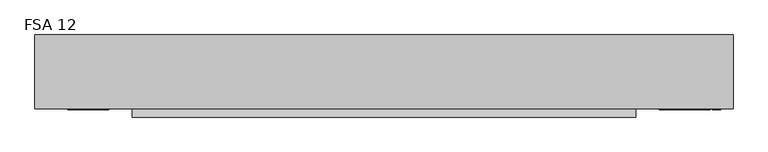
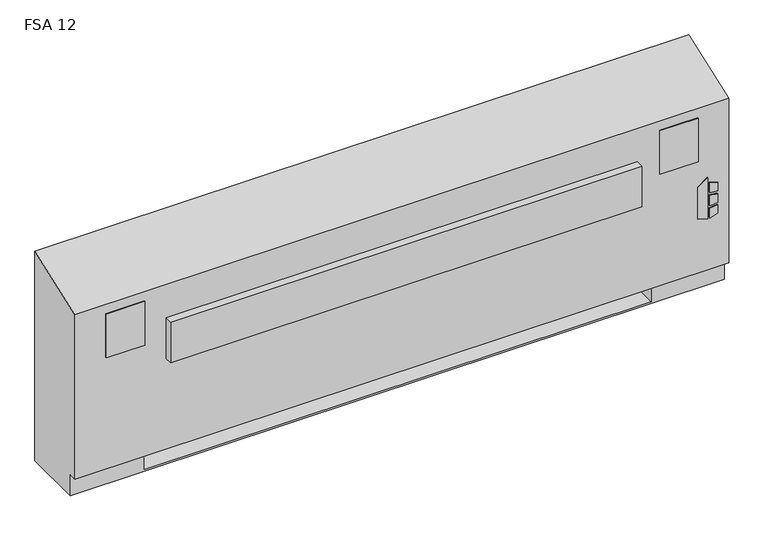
"""IFC4 building model written with IfcOpenShell, lengths in millimetres: proxy geometry, Vertical_Fan_Coil_Unit_-_FSA_-_IEC_-_2-Pipe_FS-FR_RH_2022 : FSA 12."""

from ifc_helpers import new_model, si_unit, point, frame, frame_2d, origin, place, context, project, spatial, polyline, circle_curve, trimmed, segment, composite_curve, outline, extrude, source, transform, mapped, element, save
from ifc_brep_helpers import plane_surface, revolved_surface, advanced_brep


def fsa_12_98031c45(model_context):
    return source(origin(), model_context, "Body", "SolidModel", [
        extrude(outline(polyline([(263.9480703, 1128.7868862), (254.0, 1160.9602728), (396.1709244, 1160.9602728), (373.1489183, 1128.7868862), (263.9480703, 1128.7868862)])), frame((0.0, 12.7, 0.0), z_axis=(0.0, 1.0, 0.0), x_axis=(0.0, 0.0, 1.0)), (0.0, 0.0, 1.0), 3.175),
        extrude(outline(polyline([(342.9473557, 1167.7186058), (339.7449632, 1193.8), (368.9738042, 1193.8), (377.0382193, 1167.7186058), (342.9473557, 1167.7186058)])), frame((0.0, 12.7, 0.0), z_axis=(0.0, 1.0, 0.0), x_axis=(0.0, 0.0, 1.0)), (0.0, 0.0, 1.0), 3.175),
        extrude(outline(polyline([(291.0838288, 1193.8), (287.4183279, 1167.7186058), (254.0, 1167.7186058), (262.6342372, 1193.8), (291.0838288, 1193.8)])), frame((0.0, 12.7, 0.0), z_axis=(0.0, 1.0, 0.0), x_axis=(0.0, 0.0, 1.0)), (0.0, 0.0, 1.0), 3.175),
        extrude(outline(polyline([(330.3989903, 1193.8), (332.6808166, 1167.7186058), (296.7432681, 1167.7186058), (299.4845331, 1193.8), (330.3989903, 1193.8)])), frame((0.0, 12.7, 0.0), z_axis=(0.0, 1.0, 0.0), x_axis=(0.0, 0.0, 1.0)), (0.0, 0.0, 1.0), 3.175),
        extrude(outline(polyline([(-806.45, 81.534), (-806.45, 223.266), (-685.8, 223.266), (-685.8, 81.534), (-806.45, 81.534)])), frame((0.0, 0.0, 327.025), z_axis=(0.0, 0.0, 1.0), x_axis=(1.0, 0.0, 0.0)), (0.0, 0.0, 1.0), 260.35),
        extrude(outline(polyline([(-698.5, 12.7), (-825.5, 12.7), (-825.5, 15.875), (-698.5, 15.875), (-698.5, 12.7)])), frame((0.0, 0.0, 463.55), z_axis=(0.0, 0.0, 1.0), x_axis=(1.0, 0.0, 0.0)), (0.0, 0.0, 1.0), 152.4),
        extrude(outline(polyline([(1130.3, 12.7), (1003.3, 12.7), (1003.3, 15.875), (1130.3, 15.875), (1130.3, 12.7)])), frame((0.0, 0.0, 463.55), z_axis=(0.0, 0.0, 1.0), x_axis=(1.0, 0.0, 0.0)), (0.0, 0.0, 1.0), 152.4),
        extrude(outline(composite_curve([segment(trimmed(circle_curve(frame_2d((1054.1, 130.175)), 9.525), [point((1044.575, 130.175))], [point((1063.625, 130.175))], False, "CARTESIAN"), True, "CONTINUOUS"), segment(trimmed(circle_curve(frame_2d((1054.1, 130.175)), 9.525), [point((1063.625, 130.175))], [point((1044.575, 130.175))], False, "CARTESIAN"), True, "CONTINUOUS")], self_intersect=False)), frame((0.0, 0.0, 101.6), z_axis=(0.0, 0.0, 1.0), x_axis=(1.0, 0.0, 0.0)), (0.0, 0.0, 1.0), 25.4),
        extrude(outline(polyline([(1155.7, 196.85), (1155.7, 63.5), (990.6, 63.5), (990.6, 196.85), (1155.7, 196.85)])), frame((0.0, 0.0, 127.0), z_axis=(0.0, 0.0, 1.0), x_axis=(1.0, 0.0, 0.0)), (0.0, 0.0, 1.0), 50.8),
        extrude(outline(polyline([(930.275, -9.525), (-625.475, -9.525), (-625.475, 15.875), (930.275, 15.875), (930.275, -9.525)])), frame((0.0, 0.0, 389.3009245), z_axis=(0.0, 0.0, 1.0), x_axis=(1.0, 0.0, 0.0)), (0.0, 0.0, 1.0), 142.875),
        extrude(outline(composite_curve([segment(trimmed(circle_curve(frame_2d((109.347, 456.819)), 7.9375), [point((109.347, 464.7565))], [point((109.347, 448.8815))], False, "CARTESIAN"), True, "CONTINUOUS"), segment(trimmed(circle_curve(frame_2d((109.347, 456.819)), 7.9375), [point((109.347, 448.8815))], [point((109.347, 464.7565))], False, "CARTESIAN"), True, "CONTINUOUS")], self_intersect=False)), frame((990.6, 0.0, 0.0), z_axis=(1.0, 0.0, 0.0), x_axis=(0.0, 1.0, 0.0)), (0.0, 0.0, 1.0), 50.8),
        extrude(outline(composite_curve([segment(trimmed(circle_curve(frame_2d((157.4546, 429.4632)), 7.9375), [point((157.4546, 437.4007))], [point((157.4546, 421.5257))], False, "CARTESIAN"), True, "CONTINUOUS"), segment(trimmed(circle_curve(frame_2d((157.4546, 429.4632)), 7.9375), [point((157.4546, 421.5257))], [point((157.4546, 437.4007))], False, "CARTESIAN"), True, "CONTINUOUS")], self_intersect=False)), frame((990.6, 0.0, 0.0), z_axis=(1.0, 0.0, 0.0), x_axis=(0.0, 1.0, 0.0)), (0.0, 0.0, 1.0), 50.8),
        advanced_brep(
        [(-927.1, 244.475, 0.0), (1231.9, 244.475, 0.0), (1231.9, 41.275, 0.0), (-927.1, 41.275, 0.0), (-927.1, 244.475, 730.25), (1231.9, 244.475, 730.25), (990.6, 244.475, 73.025), (1219.2, 244.475, 73.025), (1219.2, 244.475, 654.05), (990.6, 244.475, 654.05), (990.6, 244.475, 414.8650565), (1019.175, 244.475, 414.8650565), (1019.175, 244.475, 385.2349435), (990.6, 244.475, 385.2349435), (990.6, 244.475, 287.3375), (1019.175, 244.475, 287.3375), (1019.175, 244.475, 258.7625), (990.6, 244.475, 258.7625), (990.6, 244.475, 141.2875), (1019.175, 244.475, 141.2875), (1019.175, 244.475, 112.7125), (990.6, 244.475, 112.7125), (-685.8, 244.475, 654.05), (-914.4, 244.475, 654.05), (-914.4, 244.475, 73.025), (-685.8, 244.475, 73.025), (-685.8, 244.475, 112.7125), (-714.375, 244.475, 112.7125), (-714.375, 244.475, 141.2875), (-685.8, 244.475, 141.2875), (-685.8, 244.475, 258.7625), (-714.375, 244.475, 258.7625), (-714.375, 244.475, 287.3375), (-685.8, 244.475, 287.3375), (-685.8, 244.475, 385.2349435), (-714.375, 244.475, 385.2349435), (-714.375, 244.475, 414.8650565), (-685.8, 244.475, 414.8650565), (1008.8626, 244.475, 127.0), (997.7374, 244.475, 127.0), (1008.8626, 244.475, 400.05), (997.7374, 244.475, 400.05), (1008.8626, 244.475, 273.05), (997.7374, 244.475, 273.05), (-692.9374, 244.475, 127.0), (-704.0626, 244.475, 127.0), (-692.9374, 244.475, 273.05), (-704.0626, 244.475, 273.05), (-692.9374, 244.475, 400.05), (-704.0626, 244.475, 400.05), (-927.1, 41.275, 73.025), (-927.1, 15.875, 73.025), (-927.1, 15.875, 647.7), (1231.9, 15.875, 73.025), (1231.9, 15.875, 647.7), (1231.9, 41.275, 73.025), (-685.8, 41.275, 73.025), (-685.8, 225.425, 73.025), (990.6, 225.425, 73.025), (990.6, 41.275, 73.025), (990.6, 41.275, 6.35), (-685.8, 41.275, 6.35), (990.6, 41.275, 654.05), (1219.2, 41.275, 654.05), (1219.2, 41.275, 73.025), (990.6, 41.275, 73.025), (-685.8, 41.275, 654.05), (-685.8, 41.275, 73.025), (-914.4, 41.275, 73.025), (-914.4, 41.275, 654.05), (990.6, 225.425, 73.025), (990.6, 238.125, 112.7125), (990.6, 238.125, 141.2875), (990.6, 238.125, 258.7625), (990.6, 238.125, 287.3375), (990.6, 238.125, 385.2349435), (990.6, 238.125, 414.8650565), (-685.8, 225.425, 73.025), (-685.8, 238.125, 414.8650565), (-685.8, 238.125, 385.2349435), (-685.8, 238.125, 287.3375), (-685.8, 238.125, 258.7625), (-685.8, 238.125, 141.2875), (-685.8, 238.125, 112.7125), (-685.8, 225.425, 6.35), (990.6, 225.425, 6.35), (1019.175, 238.125, 112.7125), (1019.175, 238.125, 141.2875), (997.7374, 238.125, 127.0), (1008.8626, 238.125, 127.0), (1019.175, 238.125, 258.7625), (1019.175, 238.125, 287.3375), (997.7374, 238.125, 273.05), (1008.8626, 238.125, 273.05), (1019.175, 238.125, 385.2349435), (1019.175, 238.125, 414.8650565), (997.7374, 238.125, 400.05), (1008.8626, 238.125, 400.05), (-714.375, 238.125, 141.2875), (-714.375, 238.125, 112.7125), (-704.0626, 238.125, 127.0), (-692.9374, 238.125, 127.0), (-714.375, 238.125, 287.3375), (-714.375, 238.125, 258.7625), (-704.0626, 238.125, 273.05), (-692.9374, 238.125, 273.05), (-714.375, 238.125, 414.8650565), (-714.375, 238.125, 385.2349435), (-704.0626, 238.125, 400.05), (-692.9374, 238.125, 400.05)],
        [
            (0, 1),
            (1, 2),
            (2, 3),
            (3, 0),
            (0, 4),
            (4, 5),
            (5, 1),
            (6, 7),
            (7, 8),
            (8, 9),
            (9, 10),
            (10, 11),
            (11, 12),
            (12, 13),
            (13, 14),
            (14, 15),
            (15, 16),
            (16, 17),
            (17, 18),
            (18, 19),
            (19, 20),
            (20, 21),
            (21, 6),
            (22, 23),
            (23, 24),
            (24, 25),
            (25, 26),
            (26, 27),
            (27, 28),
            (28, 29),
            (29, 30),
            (30, 31),
            (31, 32),
            (32, 33),
            (33, 34),
            (34, 35),
            (35, 36),
            (36, 37),
            (37, 22),
            (38, 39, circle_curve(frame((1003.3, 244.475, 127.0), z_axis=(0.0, -1.0, 0.0), x_axis=(-1.0, 0.0, 0.0)), 5.5626)),
            (39, 38, circle_curve(frame((1003.3, 244.475, 127.0), z_axis=(0.0, -1.0, 0.0), x_axis=(-1.0, 0.0, 0.0)), 5.5626)),
            (40, 41, circle_curve(frame((1003.3, 244.475, 400.05), z_axis=(0.0, -1.0, 0.0), x_axis=(-1.0, 0.0, 0.0)), 5.5626)),
            (41, 40, circle_curve(frame((1003.3, 244.475, 400.05), z_axis=(0.0, -1.0, 0.0), x_axis=(-1.0, 0.0, 0.0)), 5.5626)),
            (42, 43, circle_curve(frame((1003.3, 244.475, 273.05), z_axis=(0.0, -1.0, 0.0), x_axis=(-1.0, 0.0, 0.0)), 5.5626)),
            (43, 42, circle_curve(frame((1003.3, 244.475, 273.05), z_axis=(0.0, -1.0, 0.0), x_axis=(-1.0, 0.0, 0.0)), 5.5626)),
            (44, 45, circle_curve(frame((-698.5, 244.475, 127.0), z_axis=(0.0, -1.0, 0.0), x_axis=(-1.0, 0.0, 0.0)), 5.5626)),
            (45, 44, circle_curve(frame((-698.5, 244.475, 127.0), z_axis=(0.0, -1.0, 0.0), x_axis=(-1.0, 0.0, 0.0)), 5.5626)),
            (46, 47, circle_curve(frame((-698.5, 244.475, 273.05), z_axis=(0.0, -1.0, 0.0), x_axis=(-1.0, 0.0, 0.0)), 5.5626)),
            (47, 46, circle_curve(frame((-698.5, 244.475, 273.05), z_axis=(0.0, -1.0, 0.0), x_axis=(-1.0, 0.0, 0.0)), 5.5626)),
            (48, 49, circle_curve(frame((-698.5, 244.475, 400.05), z_axis=(0.0, -1.0, 0.0), x_axis=(-1.0, 0.0, 0.0)), 5.5626)),
            (49, 48, circle_curve(frame((-698.5, 244.475, 400.05), z_axis=(0.0, -1.0, 0.0), x_axis=(-1.0, 0.0, 0.0)), 5.5626)),
            (3, 50),
            (50, 51),
            (51, 52),
            (52, 4),
            (51, 53),
            (53, 54),
            (54, 52),
            (5, 54),
            (53, 55),
            (55, 2),
            (50, 56),
            (56, 57),
            (57, 58),
            (58, 59),
            (59, 55),
            (59, 60),
            (60, 61),
            (61, 56),
            (62, 63),
            (63, 64),
            (64, 65),
            (65, 62),
            (66, 67),
            (67, 68),
            (68, 69),
            (69, 66),
            (65, 70),
            (70, 6),
            (21, 71),
            (71, 72),
            (72, 18),
            (17, 73),
            (73, 74),
            (74, 14),
            (13, 75),
            (75, 76),
            (76, 10),
            (9, 62),
            (64, 7),
            (63, 8),
            (69, 23),
            (22, 66),
            (68, 24),
            (67, 77),
            (77, 25),
            (37, 78),
            (78, 79),
            (79, 34),
            (33, 80),
            (80, 81),
            (81, 30),
            (29, 82),
            (82, 83),
            (83, 26),
            (57, 84),
            (84, 85),
            (85, 58),
            (85, 60),
            (84, 61),
            (71, 86),
            (86, 87),
            (87, 72),
            (88, 89, circle_curve(frame((1003.3, 238.125, 127.0), z_axis=(0.0, 1.0, 0.0), x_axis=(-1.0, 0.0, 0.0)), 5.5626)),
            (89, 88, circle_curve(frame((1003.3, 238.125, 127.0), z_axis=(0.0, 1.0, 0.0), x_axis=(-1.0, 0.0, 0.0)), 5.5626)),
            (73, 90),
            (90, 91),
            (91, 74),
            (92, 93, circle_curve(frame((1003.3, 238.125, 273.05), z_axis=(0.0, 1.0, 0.0), x_axis=(-1.0, 0.0, 0.0)), 5.5626)),
            (93, 92, circle_curve(frame((1003.3, 238.125, 273.05), z_axis=(0.0, 1.0, 0.0), x_axis=(-1.0, 0.0, 0.0)), 5.5626)),
            (75, 94),
            (94, 95),
            (95, 76),
            (96, 97, circle_curve(frame((1003.3, 238.125, 400.05), z_axis=(0.0, 1.0, 0.0), x_axis=(-1.0, 0.0, 0.0)), 5.5626)),
            (97, 96, circle_curve(frame((1003.3, 238.125, 400.05), z_axis=(0.0, 1.0, 0.0), x_axis=(-1.0, 0.0, 0.0)), 5.5626)),
            (98, 99),
            (99, 83),
            (82, 98),
            (100, 101, circle_curve(frame((-698.5, 238.125, 127.0), z_axis=(0.0, 1.0, 0.0), x_axis=(-1.0, 0.0, 0.0)), 5.5626)),
            (101, 100, circle_curve(frame((-698.5, 238.125, 127.0), z_axis=(0.0, 1.0, 0.0), x_axis=(-1.0, 0.0, 0.0)), 5.5626)),
            (102, 103),
            (103, 81),
            (80, 102),
            (104, 105, circle_curve(frame((-698.5, 238.125, 273.05), z_axis=(0.0, 1.0, 0.0), x_axis=(-1.0, 0.0, 0.0)), 5.5626)),
            (105, 104, circle_curve(frame((-698.5, 238.125, 273.05), z_axis=(0.0, 1.0, 0.0), x_axis=(-1.0, 0.0, 0.0)), 5.5626)),
            (106, 107),
            (107, 79),
            (78, 106),
            (108, 109, circle_curve(frame((-698.5, 238.125, 400.05), z_axis=(0.0, 1.0, 0.0), x_axis=(-1.0, 0.0, 0.0)), 5.5626)),
            (109, 108, circle_curve(frame((-698.5, 238.125, 400.05), z_axis=(0.0, 1.0, 0.0), x_axis=(-1.0, 0.0, 0.0)), 5.5626)),
            (87, 19),
            (86, 20),
            (91, 15),
            (90, 16),
            (95, 11),
            (94, 12),
            (28, 98),
            (99, 27),
            (32, 102),
            (103, 31),
            (36, 106),
            (107, 35),
            (88, 39),
            (38, 89),
            (96, 41),
            (40, 97),
            (92, 43),
            (42, 93),
            (100, 45),
            (44, 101),
            (104, 47),
            (46, 105),
            (108, 49),
            (48, 109),
        ],
        [
            plane_surface(frame((-927.1, 244.475, 0.0), z_axis=(0.0, 0.0, -1.0), x_axis=(1.0, 0.0, 0.0))),
            plane_surface(frame((1231.9, 244.475, 730.25), z_axis=(0.0, 1.0, 0.0), x_axis=(0.0, 0.0, -1.0))),
            plane_surface(frame((-927.1, 244.475, 730.25), z_axis=(-1.0, 0.0, 0.0), x_axis=(0.0, 0.0, -1.0))),
            plane_surface(frame((-927.1, 15.875, 730.25), z_axis=(0.0, -1.0, 0.0), x_axis=(0.0, 0.0, -1.0))),
            plane_surface(frame((1231.9, 15.875, 730.25), z_axis=(1.0, 0.0, 0.0), x_axis=(0.0, 0.0, -1.0))),
            plane_surface(frame((-927.1, 15.875, 73.025), z_axis=(0.0, 0.0, -1.0), x_axis=(1.0, 0.0, 0.0))),
            plane_surface(frame((-927.1, 41.275, 73.025), z_axis=(0.0, -1.0, 0.0), x_axis=(1.0, 0.0, 0.0))),
            plane_surface(frame((990.6, 41.275, 654.05), z_axis=(0.0, 1.0, 0.0), x_axis=(0.0, 0.0, -1.0))),
            plane_surface(frame((990.6, 41.275, 654.05), z_axis=(1.0, 0.0, 0.0), x_axis=(0.0, 1.0, 0.0))),
            plane_surface(frame((990.6, 41.275, 73.025), z_axis=(0.0, 0.0, 1.0), x_axis=(0.0, 1.0, 0.0))),
            plane_surface(frame((1219.2, 41.275, 73.025), z_axis=(-1.0, 0.0, 0.0), x_axis=(0.0, 1.0, 0.0))),
            plane_surface(frame((1219.2, 41.275, 654.05), z_axis=(0.0, 0.0, -1.0), x_axis=(0.0, 1.0, 0.0))),
            plane_surface(frame((-685.8, 41.275, 654.05), z_axis=(0.0, 0.0, -1.0), x_axis=(0.0, 1.0, 0.0))),
            plane_surface(frame((-914.4, 41.275, 654.05), z_axis=(1.0, 0.0, 0.0), x_axis=(0.0, 1.0, 0.0))),
            plane_surface(frame((-914.4, 41.275, 73.025), z_axis=(0.0, 0.0, 1.0), x_axis=(0.0, 1.0, 0.0))),
            plane_surface(frame((-685.8, 41.275, 73.025), z_axis=(-1.0, 0.0, 0.0), x_axis=(0.0, 1.0, 0.0))),
            plane_surface(frame((990.6, 225.425, 73.025), z_axis=(0.0, -1.0, 0.0), x_axis=(0.0, 0.0, -1.0))),
            plane_surface(frame((990.6, 225.425, 73.025), z_axis=(-1.0, 0.0, 0.0), x_axis=(0.0, -1.0, 0.0))),
            plane_surface(frame((990.6, 225.425, 6.35), z_axis=(0.0, 0.0, 1.0), x_axis=(0.0, -1.0, 0.0))),
            plane_surface(frame((-685.8, 225.425, 6.35), z_axis=(1.0, 0.0, 0.0), x_axis=(0.0, -1.0, 0.0))),
            plane_surface(frame((1019.175, 238.125, 141.2875), z_axis=(0.0, -1.0, 0.0), x_axis=(-1.0, 0.0, 0.0))),
            plane_surface(frame((990.6, 244.475, 141.2875), z_axis=(0.0, 0.0, 1.0), x_axis=(0.0, -1.0, 0.0))),
            plane_surface(frame((1019.175, 244.475, 141.2875), z_axis=(1.0, 0.0, 0.0), x_axis=(0.0, -1.0, 0.0))),
            plane_surface(frame((1019.175, 244.475, 112.7125), z_axis=(0.0, 0.0, -1.0), x_axis=(0.0, -1.0, 0.0))),
            plane_surface(frame((990.6, 244.475, 287.3375), z_axis=(0.0, 0.0, 1.0), x_axis=(0.0, -1.0, 0.0))),
            plane_surface(frame((1019.175, 244.475, 287.3375), z_axis=(1.0, 0.0, 0.0), x_axis=(0.0, -1.0, 0.0))),
            plane_surface(frame((1019.175, 244.475, 258.7625), z_axis=(0.0, 0.0, -1.0), x_axis=(0.0, -1.0, 0.0))),
            plane_surface(frame((990.6, 244.475, 414.8650565), z_axis=(0.0, 0.0, 1.0), x_axis=(0.0, -1.0, 0.0))),
            plane_surface(frame((1019.175, 244.475, 414.8650565), z_axis=(1.0, 0.0, 0.0), x_axis=(0.0, -1.0, 0.0))),
            plane_surface(frame((1019.175, 244.475, 385.2349435), z_axis=(0.0, 0.0, -1.0), x_axis=(0.0, -1.0, 0.0))),
            plane_surface(frame((-714.375, 244.475, 141.2875), z_axis=(0.0, 0.0, 1.0), x_axis=(0.0, -1.0, 0.0))),
            plane_surface(frame((-685.8, 244.475, 112.7125), z_axis=(0.0, 0.0, -1.0), x_axis=(0.0, -1.0, 0.0))),
            plane_surface(frame((-714.375, 244.475, 112.7125), z_axis=(-1.0, 0.0, 0.0), x_axis=(0.0, -1.0, 0.0))),
            plane_surface(frame((-714.375, 244.475, 287.3375), z_axis=(0.0, 0.0, 1.0), x_axis=(0.0, -1.0, 0.0))),
            plane_surface(frame((-685.8, 244.475, 258.7625), z_axis=(0.0, 0.0, -1.0), x_axis=(0.0, -1.0, 0.0))),
            plane_surface(frame((-714.375, 244.475, 258.7625), z_axis=(-1.0, 0.0, 0.0), x_axis=(0.0, -1.0, 0.0))),
            plane_surface(frame((-714.375, 244.475, 414.8650565), z_axis=(0.0, 0.0, 1.0), x_axis=(0.0, -1.0, 0.0))),
            plane_surface(frame((-685.8, 244.475, 385.2349435), z_axis=(0.0, 0.0, -1.0), x_axis=(0.0, -1.0, 0.0))),
            plane_surface(frame((-714.375, 244.475, 385.2349435), z_axis=(-1.0, 0.0, 0.0), x_axis=(0.0, -1.0, 0.0))),
            revolved_surface(polyline([(997.7374, 238.125, 127.0), (997.7374, 244.475, 127.0)]), (1003.3, 244.475, 127.0), (0.0, -1.0, 0.0)),
            revolved_surface(polyline([(997.7374, 238.125, 400.05), (997.7374, 244.475, 400.05)]), (1003.3, 244.475, 400.05), (0.0, -1.0, 0.0)),
            revolved_surface(polyline([(997.7374, 238.125, 273.05), (997.7374, 244.475, 273.05)]), (1003.3, 244.475, 273.05), (0.0, -1.0, 0.0)),
            revolved_surface(polyline([(-704.0626, 238.125, 127.0), (-704.0626, 244.475, 127.0)]), (-698.5, 244.475, 127.0), (0.0, -1.0, 0.0)),
            revolved_surface(polyline([(-704.0626, 238.125, 273.05), (-704.0626, 244.475, 273.05)]), (-698.5, 244.475, 273.05), (0.0, -1.0, 0.0)),
            revolved_surface(polyline([(-704.0626, 238.125, 400.05), (-704.0626, 244.475, 400.05)]), (-698.5, 244.475, 400.05), (0.0, -1.0, 0.0)),
            plane_surface(frame((-927.1, 244.475, 730.25), z_axis=(0.0, -0.33964446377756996, 0.9405538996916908), x_axis=(1.0, 0.0, 0.0))),
        ],
        [
            (0, [[1, 2, 3, 4]]),
            (1, [[-1, 5, 6, 7], [8, 9, 10, 11, 12, 13, 14, 15, 16, 17, 18, 19, 20, 21, 22, 23], [24, 25, 26, 27, 28, 29, 30, 31, 32, 33, 34, 35, 36, 37, 38, 39], [40, 41], [42, 43], [44, 45], [46, 47], [48, 49], [50, 51]]),
            (2, [[-5, -4, 52, 53, 54, 55]]),
            (3, [[56, 57, 58, -54]]),
            (4, [[-7, 59, -57, 60, 61, -2]]),
            (5, [[-53, 62, 63, 64, 65, 66, -60, -56]]),
            (6, [[-3, -61, -66, 67, 68, 69, -62, -52]]),
            (7, [[70, 71, 72, 73]]),
            (7, [[74, 75, 76, 77]]),
            (8, [[-73, 78, 79, -23, 80, 81, 82, -19, 83, 84, 85, -15, 86, 87, 88, -11, 89]]),
            (9, [[-72, 90, -8, -79, -78]]),
            (10, [[-71, 91, -9, -90]]),
            (11, [[-70, -89, -10, -91]]),
            (12, [[-77, 92, -24, 93]]),
            (13, [[-76, 94, -25, -92]]),
            (14, [[-75, 95, 96, -26, -94]]),
            (15, [[-74, -93, -39, 97, 98, 99, -35, 100, 101, 102, -31, 103, 104, 105, -27, -96, -95]]),
            (16, [[-64, 106, 107, 108]]),
            (17, [[-108, 109, -67, -65]]),
            (18, [[-107, 110, -68, -109]]),
            (19, [[-106, -63, -69, -110]]),
            (20, [[111, 112, 113, -81], [114, 115]]),
            (20, [[116, 117, 118, -84], [119, 120]]),
            (20, [[121, 122, 123, -87], [124, 125]]),
            (20, [[126, 127, -104, 128], [129, 130]]),
            (20, [[131, 132, -101, 133], [134, 135]]),
            (20, [[136, 137, -98, 138], [139, 140]]),
            (21, [[-113, 141, -20, -82]]),
            (22, [[-112, 142, -21, -141]]),
            (23, [[-111, -80, -22, -142]]),
            (24, [[-118, 143, -16, -85]]),
            (25, [[-117, 144, -17, -143]]),
            (26, [[-116, -83, -18, -144]]),
            (27, [[-123, 145, -12, -88]]),
            (28, [[-122, 146, -13, -145]]),
            (29, [[-121, -86, -14, -146]]),
            (30, [[-128, -103, -30, 147]]),
            (31, [[-127, 148, -28, -105]]),
            (32, [[-126, -147, -29, -148]]),
            (33, [[-133, -100, -34, 149]]),
            (34, [[-132, 150, -32, -102]]),
            (35, [[-131, -149, -33, -150]]),
            (36, [[-138, -97, -38, 151]]),
            (37, [[-137, 152, -36, -99]]),
            (38, [[-136, -151, -37, -152]]),
            (39, [[153, -40, 154, -114]]),
            (39, [[-153, -115, -154, -41]]),
            (40, [[155, -42, 156, -124]]),
            (40, [[-155, -125, -156, -43]]),
            (41, [[157, -44, 158, -119]]),
            (41, [[-157, -120, -158, -45]]),
            (42, [[159, -46, 160, -129]]),
            (42, [[-159, -130, -160, -47]]),
            (43, [[161, -48, 162, -134]]),
            (43, [[-161, -135, -162, -49]]),
            (44, [[163, -50, 164, -139]]),
            (44, [[-163, -140, -164, -51]]),
            (45, [[-6, -55, -58, -59]]),
        ],
    ),
    ])


if __name__ == "__main__":
    model = new_model("IFC4")
    model_context = context("Model", 3, world=origin())
    ifc_project = project(units=[si_unit("LENGTHUNIT", "METRE", prefix="MILLI")], contexts=[model_context])
    site = spatial("IfcSite", under=ifc_project)
    building = spatial("IfcBuilding", under=site)
    placement = place(None, origin())
    fsa_12_shape = fsa_12_98031c45(model_context)
    element("IfcBuildingElementProxy", 1, Name="Vertical_Fan_Coil_Unit_-_FSA_-_IEC_-_2-Pipe_FS-FR_RH_2022 : FSA 12", ObjectType="Vertical_Fan_Coil_Unit_-_FSA_-_IEC_-_2-Pipe_FS-FR_RH_2022 : FSA 12", at=placement, inside=building, context=model_context, shape_type="MappedRepresentation", body=[
        mapped(fsa_12_shape, transform((0.0, 0.0, 0.0), x_axis=(1.0, 0.0, 0.0), y_axis=(0.0, 1.0, 0.0), z_axis=(0.0, 0.0, 1.0))),
    ])
    save(model, "model.ifc")
